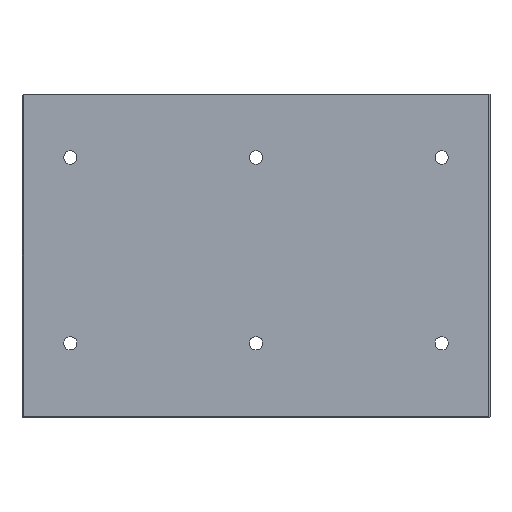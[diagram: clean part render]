
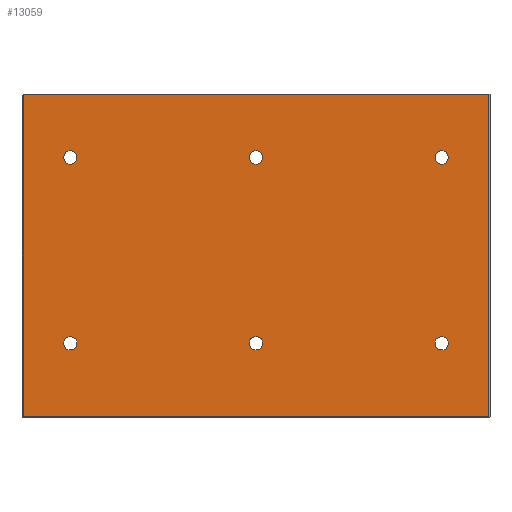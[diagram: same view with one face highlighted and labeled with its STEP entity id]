
A CAD part, front view. The second image highlights one B-rep face of the part: STEP entity #13059.
In plain terms, the highlighted planar face has unit normal (0, -1, 0).
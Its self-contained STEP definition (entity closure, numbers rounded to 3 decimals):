
#1497=DIRECTION('',(0.,0.,-1.));
#1498=VECTOR('',#1497,433.5);
#1499=CARTESIAN_POINT('',(313.5,0.,435.));
#1500=LINE('',#1499,#1498);
#1501=DIRECTION('',(-1.,0.,0.));
#1502=VECTOR('',#1501,627.);
#1503=CARTESIAN_POINT('',(313.5,0.,1.5));
#1504=LINE('',#1503,#1502);
#1505=DIRECTION('',(0.,0.,1.));
#1506=VECTOR('',#1505,433.5);
#1507=CARTESIAN_POINT('',(-313.5,0.,1.5));
#1508=LINE('',#1507,#1506);
#1509=DIRECTION('',(1.,0.,0.));
#1510=VECTOR('',#1509,627.);
#1511=CARTESIAN_POINT('',(-313.5,0.,435.));
#1512=LINE('',#1511,#1510);
#1513=CARTESIAN_POINT('',(250.,0.,100.));
#1514=DIRECTION('',(0.,1.,0.));
#1515=DIRECTION('',(1.,0.,0.));
#1516=AXIS2_PLACEMENT_3D('',#1513,#1514,#1515);
#1518=CARTESIAN_POINT('',(250.,0.,100.));
#1519=DIRECTION('',(0.,1.,0.));
#1520=DIRECTION('',(-1.,0.,0.));
#1521=AXIS2_PLACEMENT_3D('',#1518,#1519,#1520);
#1523=CARTESIAN_POINT('',(250.,0.,350.));
#1524=DIRECTION('',(0.,1.,0.));
#1525=DIRECTION('',(1.,0.,0.));
#1526=AXIS2_PLACEMENT_3D('',#1523,#1524,#1525);
#1528=CARTESIAN_POINT('',(250.,0.,350.));
#1529=DIRECTION('',(0.,1.,0.));
#1530=DIRECTION('',(-1.,0.,0.));
#1531=AXIS2_PLACEMENT_3D('',#1528,#1529,#1530);
#1533=CARTESIAN_POINT('',(0.,0.,100.));
#1534=DIRECTION('',(0.,1.,0.));
#1535=DIRECTION('',(1.,0.,0.));
#1536=AXIS2_PLACEMENT_3D('',#1533,#1534,#1535);
#1538=CARTESIAN_POINT('',(0.,0.,100.));
#1539=DIRECTION('',(0.,1.,0.));
#1540=DIRECTION('',(-1.,0.,0.));
#1541=AXIS2_PLACEMENT_3D('',#1538,#1539,#1540);
#1543=CARTESIAN_POINT('',(0.,0.,350.));
#1544=DIRECTION('',(0.,1.,0.));
#1545=DIRECTION('',(1.,0.,0.));
#1546=AXIS2_PLACEMENT_3D('',#1543,#1544,#1545);
#1548=CARTESIAN_POINT('',(0.,0.,350.));
#1549=DIRECTION('',(0.,1.,0.));
#1550=DIRECTION('',(-1.,0.,0.));
#1551=AXIS2_PLACEMENT_3D('',#1548,#1549,#1550);
#1553=CARTESIAN_POINT('',(-250.,0.,100.));
#1554=DIRECTION('',(0.,1.,0.));
#1555=DIRECTION('',(1.,0.,0.));
#1556=AXIS2_PLACEMENT_3D('',#1553,#1554,#1555);
#1558=CARTESIAN_POINT('',(-250.,0.,100.));
#1559=DIRECTION('',(0.,1.,0.));
#1560=DIRECTION('',(-1.,0.,0.));
#1561=AXIS2_PLACEMENT_3D('',#1558,#1559,#1560);
#1563=CARTESIAN_POINT('',(-250.,0.,350.));
#1564=DIRECTION('',(0.,1.,0.));
#1565=DIRECTION('',(1.,0.,0.));
#1566=AXIS2_PLACEMENT_3D('',#1563,#1564,#1565);
#1568=CARTESIAN_POINT('',(-250.,0.,350.));
#1569=DIRECTION('',(0.,1.,0.));
#1570=DIRECTION('',(-1.,0.,0.));
#1571=AXIS2_PLACEMENT_3D('',#1568,#1569,#1570);
#9357=CARTESIAN_POINT('',(313.5,0.,435.));
#9359=VERTEX_POINT('',#9357);
#9363=CARTESIAN_POINT('',(313.5,0.,1.5));
#9364=VERTEX_POINT('',#9363);
#9369=CARTESIAN_POINT('',(-313.5,0.,1.5));
#9370=VERTEX_POINT('',#9369);
#9383=CARTESIAN_POINT('',(-313.5,0.,435.));
#9384=VERTEX_POINT('',#9383);
#9457=CARTESIAN_POINT('',(259.,0.,100.));
#9458=CARTESIAN_POINT('',(241.,0.,100.));
#9459=VERTEX_POINT('',#9457);
#9460=VERTEX_POINT('',#9458);
#9473=CARTESIAN_POINT('',(259.,0.,350.));
#9474=CARTESIAN_POINT('',(241.,0.,350.));
#9475=VERTEX_POINT('',#9473);
#9476=VERTEX_POINT('',#9474);
#9489=CARTESIAN_POINT('',(9.,0.,100.));
#9490=VERTEX_POINT('',#9489);
#9491=CARTESIAN_POINT('',(-9.,0.,100.));
#9492=VERTEX_POINT('',#9491);
#9505=CARTESIAN_POINT('',(9.,0.,350.));
#9506=VERTEX_POINT('',#9505);
#9507=CARTESIAN_POINT('',(-9.,0.,350.));
#9508=VERTEX_POINT('',#9507);
#9521=CARTESIAN_POINT('',(-241.,0.,100.));
#9522=VERTEX_POINT('',#9521);
#9523=CARTESIAN_POINT('',(-259.,0.,100.));
#9524=VERTEX_POINT('',#9523);
#9537=CARTESIAN_POINT('',(-241.,0.,350.));
#9538=VERTEX_POINT('',#9537);
#9539=CARTESIAN_POINT('',(-259.,0.,350.));
#9540=VERTEX_POINT('',#9539);
#13012=CARTESIAN_POINT('',(-315.,0.,435.));
#13013=DIRECTION('',(0.,-1.,0.));
#13014=DIRECTION('',(0.,0.,-1.));
#13015=AXIS2_PLACEMENT_3D('',#13012,#13013,#13014);
#13016=PLANE('',#13015);
#13017=ORIENTED_EDGE('',*,*,#13007,.T.);
#13018=ORIENTED_EDGE('',*,*,#12772,.T.);
#13019=ORIENTED_EDGE('',*,*,#12789,.T.);
#13020=ORIENTED_EDGE('',*,*,#12974,.T.);
#13021=EDGE_LOOP('',(#13017,#13018,#13019,#13020));
#13022=FACE_OUTER_BOUND('',#13021,.F.);
#13024=ORIENTED_EDGE('',*,*,#13023,.F.);
#13026=ORIENTED_EDGE('',*,*,#13025,.F.);
#13027=EDGE_LOOP('',(#13024,#13026));
#13028=FACE_BOUND('',#13027,.F.);
#13030=ORIENTED_EDGE('',*,*,#13029,.F.);
#13032=ORIENTED_EDGE('',*,*,#13031,.F.);
#13033=EDGE_LOOP('',(#13030,#13032));
#13034=FACE_BOUND('',#13033,.F.);
#13036=ORIENTED_EDGE('',*,*,#13035,.F.);
#13038=ORIENTED_EDGE('',*,*,#13037,.F.);
#13039=EDGE_LOOP('',(#13036,#13038));
#13040=FACE_BOUND('',#13039,.F.);
#13042=ORIENTED_EDGE('',*,*,#13041,.F.);
#13044=ORIENTED_EDGE('',*,*,#13043,.F.);
#13045=EDGE_LOOP('',(#13042,#13044));
#13046=FACE_BOUND('',#13045,.F.);
#13048=ORIENTED_EDGE('',*,*,#13047,.F.);
#13050=ORIENTED_EDGE('',*,*,#13049,.F.);
#13051=EDGE_LOOP('',(#13048,#13050));
#13052=FACE_BOUND('',#13051,.F.);
#13054=ORIENTED_EDGE('',*,*,#13053,.F.);
#13056=ORIENTED_EDGE('',*,*,#13055,.F.);
#13057=EDGE_LOOP('',(#13054,#13056));
#13058=FACE_BOUND('',#13057,.F.);
#13059=ADVANCED_FACE('',(#13022,#13028,#13034,#13040,#13046,#13052,#13058),
#13016,.T.);
#1517=CIRCLE('',#1516,9.);
#1522=CIRCLE('',#1521,9.);
#1527=CIRCLE('',#1526,9.);
#1532=CIRCLE('',#1531,9.);
#1537=CIRCLE('',#1536,9.);
#1542=CIRCLE('',#1541,9.);
#1547=CIRCLE('',#1546,9.);
#1552=CIRCLE('',#1551,9.);
#1557=CIRCLE('',#1556,9.);
#1562=CIRCLE('',#1561,9.);
#1567=CIRCLE('',#1566,9.);
#1572=CIRCLE('',#1571,9.);
#12772=EDGE_CURVE('',#9364,#9370,#1504,.T.);
#12789=EDGE_CURVE('',#9370,#9384,#1508,.T.);
#12974=EDGE_CURVE('',#9384,#9359,#1512,.T.);
#13007=EDGE_CURVE('',#9359,#9364,#1500,.T.);
#13023=EDGE_CURVE('',#9459,#9460,#1517,.T.);
#13025=EDGE_CURVE('',#9460,#9459,#1522,.T.);
#13029=EDGE_CURVE('',#9475,#9476,#1527,.T.);
#13031=EDGE_CURVE('',#9476,#9475,#1532,.T.);
#13035=EDGE_CURVE('',#9490,#9492,#1537,.T.);
#13037=EDGE_CURVE('',#9492,#9490,#1542,.T.);
#13041=EDGE_CURVE('',#9506,#9508,#1547,.T.);
#13043=EDGE_CURVE('',#9508,#9506,#1552,.T.);
#13047=EDGE_CURVE('',#9522,#9524,#1557,.T.);
#13049=EDGE_CURVE('',#9524,#9522,#1562,.T.);
#13053=EDGE_CURVE('',#9538,#9540,#1567,.T.);
#13055=EDGE_CURVE('',#9540,#9538,#1572,.T.);
